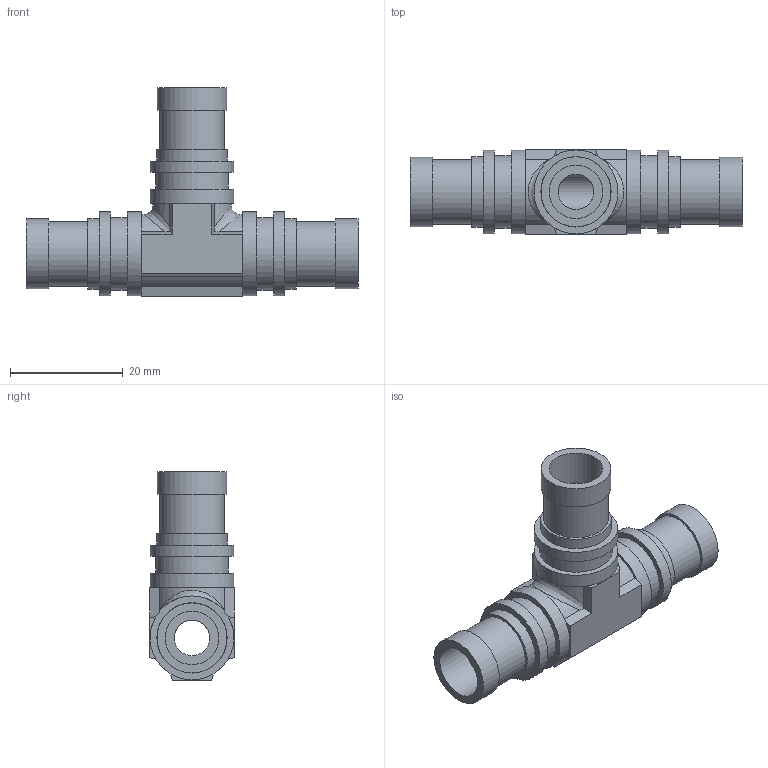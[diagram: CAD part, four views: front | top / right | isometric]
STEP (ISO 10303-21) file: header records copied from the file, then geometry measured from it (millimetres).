
FILE_DESCRIPTION( ( 'Unknown' ), '1' );
FILE_NAME( '//Sv02/01_社内情報/103_技術部/012_図面/図面/電子カタログ-3D/電子カタログ-3D元ファイル(par)/70_3D電子カタログ/05_UT/インチ/70-9.5UT-P.stp', 'Unknown', ( 'Unknown' ), ( 'Unknown' ), 'XStep 1.0', 'Unknown', ' ' );
FILE_SCHEMA( ( 'CONFIG_CONTROL_DESIGN' ) );
Length unit declared in the file: millimetre
Products named in the file (1): 1
Bounding box: 59 x 15 x 37 mm (x, y, z)
Volume: 8092.6 mm3; surface area: 6085.2 mm2
Topology: 1 solids, 1 shells, 83 faces, 175 edges, 112 vertices
Faces by surface type: plane 52, cylinder 29, bspline 2
Full cylindrical faces by diameter (mm): 6.3 x2, 9.5 x3, 11.48 x3, 12.43 x3, 12.5 x3, 12.9 x3, 14.9 x6
Entity records: 2596 total; most frequent: CARTESIAN_POINT 830, DIRECTION 376, ORIENTED_EDGE 296, AXIS2_PLACEMENT_3D 154, EDGE_CURVE 148, EDGE_LOOP 128, VERTEX_POINT 108, FACE_OUTER_BOUND 106
